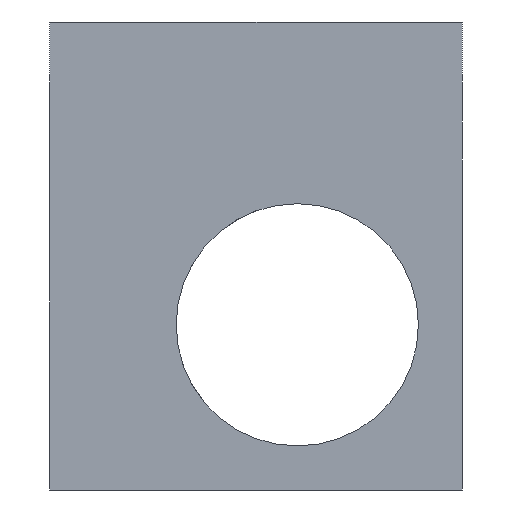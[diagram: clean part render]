
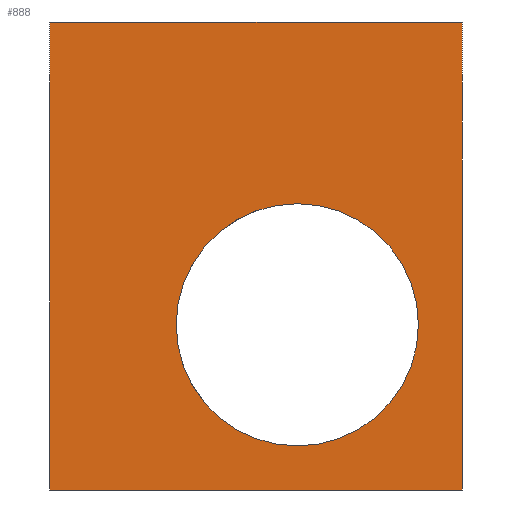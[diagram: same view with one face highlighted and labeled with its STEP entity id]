
A CAD part, left-side view. The second image highlights one B-rep face of the part: STEP entity #888.
In plain terms, the highlighted planar face has unit normal (-1, 0, 0).
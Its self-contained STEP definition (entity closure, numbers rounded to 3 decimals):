
#9 = DIRECTION ( 'NONE',  ( 1., 0., 0. ) ) ;
#64 = ORIENTED_EDGE ( 'NONE', *, *, #364, .F. ) ;
#66 = DIRECTION ( 'NONE',  ( 0., -1., 0. ) ) ;
#75 = AXIS2_PLACEMENT_3D ( 'NONE', #1402, #516, #1277 ) ;
#82 = AXIS2_PLACEMENT_3D ( 'NONE', #1411, #9, #515 ) ;
#104 = EDGE_LOOP ( 'NONE', ( #1542, #64, #1110, #935 ) ) ;
#158 = CARTESIAN_POINT ( 'NONE',  ( -37.5, 7.5, 8.5 ) ) ;
#170 = CARTESIAN_POINT ( 'NONE',  ( -37.5, -1.5, -6.9 ) ) ;
#192 = EDGE_CURVE ( 'NONE', #1057, #1097, #207, .T. ) ;
#200 = DIRECTION ( 'NONE',  ( 0., -1., 0. ) ) ;
#207 = CIRCLE ( 'NONE', #75, 4.4 ) ;
#299 = CARTESIAN_POINT ( 'NONE',  ( -37.5, -1.5, 1.9 ) ) ;
#310 = LINE ( 'NONE', #330, #1589 ) ;
#330 = CARTESIAN_POINT ( 'NONE',  ( -37.5, 7.5, -8.5 ) ) ;
#334 = EDGE_CURVE ( 'NONE', #1524, #737, #310, .T. ) ;
#364 = EDGE_CURVE ( 'NONE', #627, #1322, #938, .T. ) ;
#366 = EDGE_CURVE ( 'NONE', #1097, #1057, #1243, .T. ) ;
#448 = EDGE_CURVE ( 'NONE', #737, #1322, #1545, .T. ) ;
#515 = DIRECTION ( 'NONE',  ( 0., 0., -1. ) ) ;
#516 = DIRECTION ( 'NONE',  ( 1., 0., 0. ) ) ;
#588 = EDGE_CURVE ( 'NONE', #1524, #627, #1351, .T. ) ;
#627 = VERTEX_POINT ( 'NONE', #158 ) ;
#630 = CARTESIAN_POINT ( 'NONE',  ( -37.5, -7.5, 8.5 ) ) ;
#638 = DIRECTION ( 'NONE',  ( 0., 0., 1. ) ) ;
#696 = CARTESIAN_POINT ( 'NONE',  ( -37.5, -7.5, -8.5 ) ) ;
#708 = ORIENTED_EDGE ( 'NONE', *, *, #192, .T. ) ;
#737 = VERTEX_POINT ( 'NONE', #1103 ) ;
#791 = DIRECTION ( 'NONE',  ( 1., 0., 0. ) ) ;
#832 = CARTESIAN_POINT ( 'NONE',  ( -37.5, 7.5, 8.5 ) ) ;
#833 = CARTESIAN_POINT ( 'NONE',  ( -37.5, 7.5, -8.5 ) ) ;
#888 = ADVANCED_FACE ( 'NONE', ( #1337, #1632 ), #1543, .F. ) ;
#897 = VECTOR ( 'NONE', #66, 1000. ) ;
#913 = DIRECTION ( 'NONE',  ( 0., 0., -1. ) ) ;
#935 = ORIENTED_EDGE ( 'NONE', *, *, #334, .T. ) ;
#938 = LINE ( 'NONE', #832, #897 ) ;
#1000 = VECTOR ( 'NONE', #638, 1000. ) ;
#1057 = VERTEX_POINT ( 'NONE', #299 ) ;
#1097 = VERTEX_POINT ( 'NONE', #170 ) ;
#1103 = CARTESIAN_POINT ( 'NONE',  ( -37.5, -7.5, -8.5 ) ) ;
#1110 = ORIENTED_EDGE ( 'NONE', *, *, #588, .F. ) ;
#1166 = CARTESIAN_POINT ( 'NONE',  ( -37.5, 7.5, -8.5 ) ) ;
#1197 = EDGE_LOOP ( 'NONE', ( #1481, #708 ) ) ;
#1243 = CIRCLE ( 'NONE', #1493, 4.4 ) ;
#1277 = DIRECTION ( 'NONE',  ( 0., 0., -1. ) ) ;
#1322 = VERTEX_POINT ( 'NONE', #630 ) ;
#1337 = FACE_BOUND ( 'NONE', #1197, .T. ) ;
#1351 = LINE ( 'NONE', #1166, #1000 ) ;
#1402 = CARTESIAN_POINT ( 'NONE',  ( -37.5, -1.5, -2.5 ) ) ;
#1411 = CARTESIAN_POINT ( 'NONE',  ( -37.5, 7.5, -8.5 ) ) ;
#1481 = ORIENTED_EDGE ( 'NONE', *, *, #366, .T. ) ;
#1493 = AXIS2_PLACEMENT_3D ( 'NONE', #1562, #791, #913 ) ;
#1504 = VECTOR ( 'NONE', #1536, 1000. ) ;
#1524 = VERTEX_POINT ( 'NONE', #833 ) ;
#1536 = DIRECTION ( 'NONE',  ( 0., 0., 1. ) ) ;
#1542 = ORIENTED_EDGE ( 'NONE', *, *, #448, .T. ) ;
#1543 = PLANE ( 'NONE',  #82 ) ;
#1545 = LINE ( 'NONE', #696, #1504 ) ;
#1562 = CARTESIAN_POINT ( 'NONE',  ( -37.5, -1.5, -2.5 ) ) ;
#1589 = VECTOR ( 'NONE', #200, 1000. ) ;
#1632 = FACE_OUTER_BOUND ( 'NONE', #104, .T. ) ;
